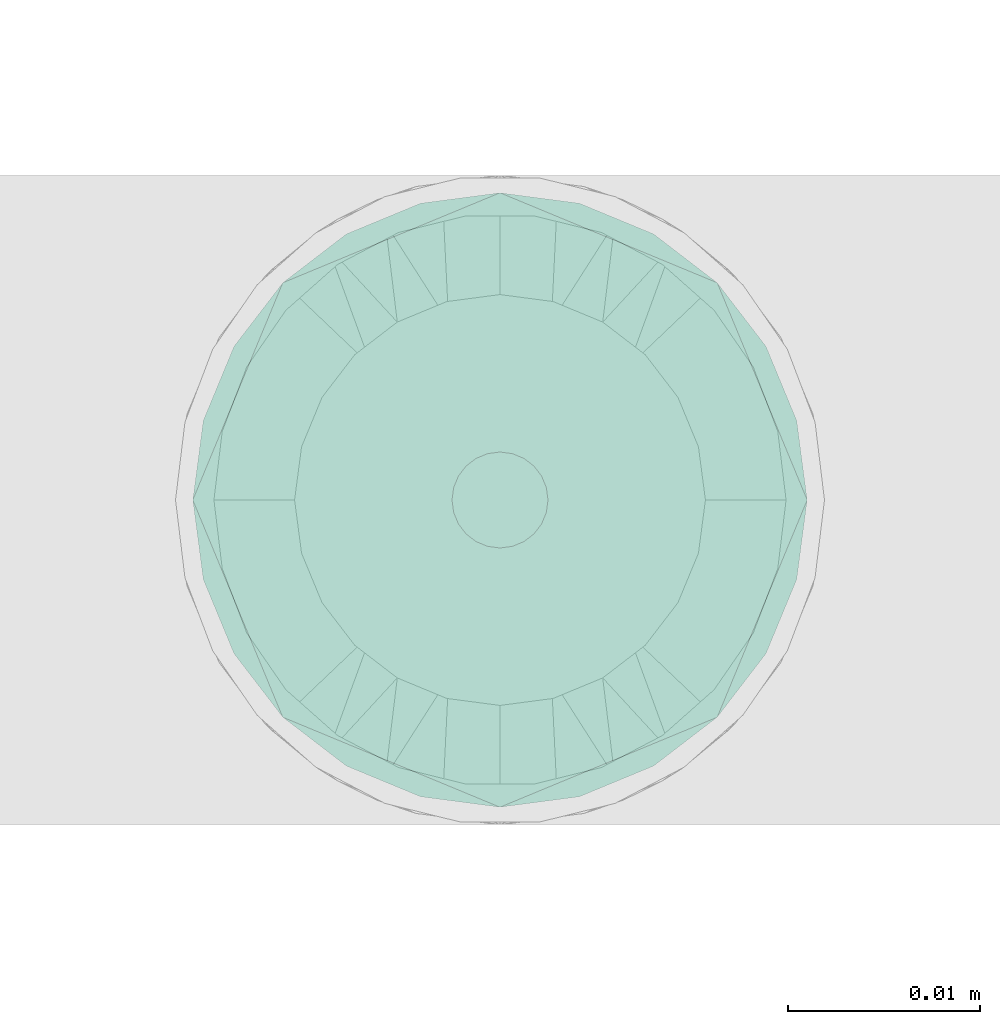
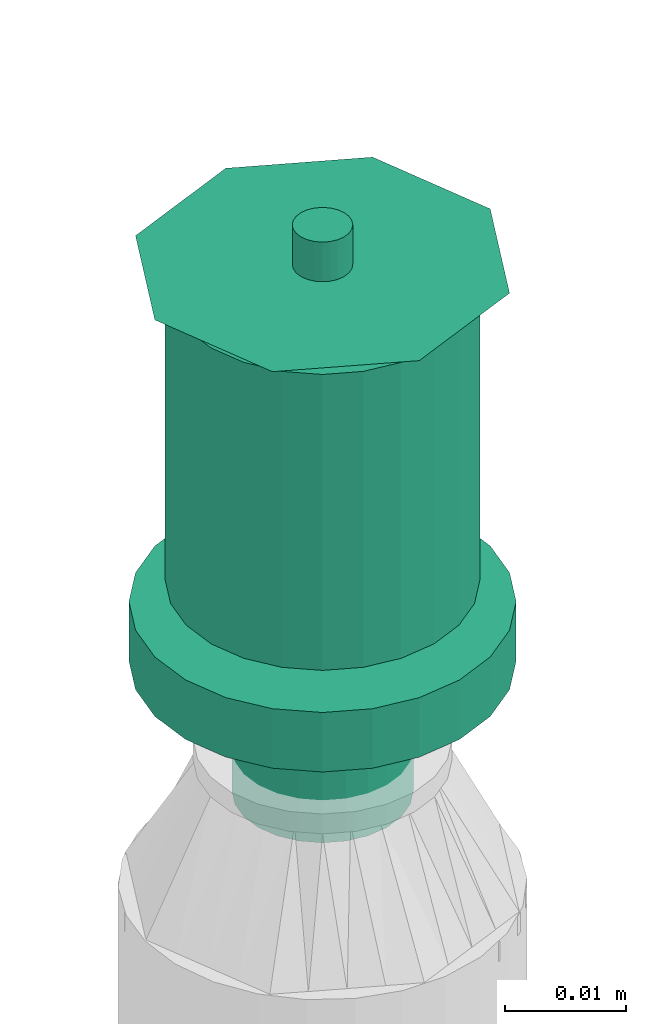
# One storey, part 30 of 63: 1 flow terminal.
"""IFC2X3 building model written with IfcOpenShell, lengths in millimetres."""

from ifc_helpers import new_model, entity, si_unit, converted_unit, derived_unit, direction, frame, origin_with_axes, place, context, subcontext, project, spatial, open_shell, surface_model, source, transform, mapped, type_object, element, save


model = new_model("IFC2X3")

# Units and contexts
model_context = context("Model", 3, precision=0.01, world=frame((0.0, 4.29681676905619e-09, 0.0)), true_north=direction((4.01073788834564e-13, 1.0)))
plan_context = context("Plan", 3, precision=0.01, world=frame((0.0, 4.29681676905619e-09, 0.0)), true_north=direction((4.01073788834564e-13, 1.0)))
body_context = subcontext(model_context, "Body", "Model", "MODEL_VIEW")
ifc_project = project(units=[converted_unit("PLANEANGLEUNIT", "DEGREE", entity("IfcPositiveLengthMeasure", 0.0174532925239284), si_unit("PLANEANGLEUNIT", "RADIAN"), dimensions=[0, 0, 0, 0, 0, 0, 0]), si_unit("AREAUNIT", "SQUARE_METRE"), si_unit("LENGTHUNIT", "METRE", prefix="MILLI"), si_unit("MASSUNIT", "GRAM", prefix="KILO"), si_unit("POWERUNIT", "WATT"), si_unit("PRESSUREUNIT", "PASCAL", prefix="KILO"), si_unit("FORCEUNIT", "NEWTON", prefix="KILO"), si_unit("ELECTRICVOLTAGEUNIT", "VOLT"), si_unit("ELECTRICCURRENTUNIT", "AMPERE"), si_unit("THERMODYNAMICTEMPERATUREUNIT", "DEGREE_CELSIUS"), si_unit("TIMEUNIT", "SECOND"), si_unit("VOLUMEUNIT", "CUBIC_METRE"), derived_unit("LINEARVELOCITYUNIT", [(si_unit("LENGTHUNIT", "METRE"), 1), (si_unit("TIMEUNIT", "SECOND"), -1)]), derived_unit("VOLUMETRICFLOWRATEUNIT", [(si_unit("VOLUMEUNIT", "CUBIC_METRE"), 1), (si_unit("TIMEUNIT", "SECOND"), -1)]), derived_unit("THERMALTRANSMITTANCEUNIT", [(si_unit("POWERUNIT", "WATT"), 1), (si_unit("THERMODYNAMICTEMPERATUREUNIT", "KELVIN"), -1), (si_unit("AREAUNIT", "SQUARE_METRE"), -1)]), derived_unit("SOUNDPRESSUREUNIT", [(si_unit("PRESSUREUNIT", "PASCAL"), 1)])], contexts=[model_context, plan_context])

# Site, building, storey
site_placement = place(None, frame((0.0, -4.29681676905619e-09, 0.0), z_axis=(0.0, 0.0, 1.0), x_axis=(1.0, 0.0, 0.0)))
site = spatial("IfcSite", under=ifc_project, at=site_placement, CompositionType="ELEMENT")
building_placement = place(site_placement, frame((0.0, 4.29681676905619e-09, 0.0), z_axis=(0.0, 0.0, 1.0), x_axis=(1.0, 0.0, 0.0)))
building = spatial("IfcBuilding", under=site, at=building_placement, Name="mc-building", CompositionType="ELEMENT")
storey_placement = place(building_placement, frame((0.0, 0.0, 207370.0), z_axis=(0.0, 0.0, 1.0), x_axis=(1.0, 0.0, 0.0)))
storey = spatial("IfcBuildingStorey", under=building, at=storey_placement, Name="Nivå E", CompositionType="ELEMENT", Elevation=207370.0)

# Flow terminal
fire_suppression_terminal_type = type_object("IfcFireSuppressionTerminalType", Name="68DGR-STD-STÅENDE", PredefinedType="NOTDEFINED")
shared_shape = source(origin_with_axes(), body_context, "Body", "SurfaceModel", [
    surface_model("IfcShellBasedSurfaceModel", [(3.36465, -12.55704, 51.0), (6.5, -11.25833, 51.0), (9.19239, -9.19239, 51.0), (12.55704, -3.36465, 51.0), (-11.25833, -6.5, 51.0), (11.25833, -6.5, 51.0), (-13.0, 0.0, 51.0), (0.0, -13.0, 51.0), (-6.5, -11.25833, 51.0), (-3.36465, -12.55704, 51.0), (-9.19239, -9.19239, 51.0), (-12.55704, -3.36465, 51.0), (13.0, 0.0, 51.0), (12.55704, 3.36465, 51.0), (11.25833, 6.5, 51.0), (9.19239, 9.19239, 51.0), (6.5, 11.25833, 51.0), (3.36465, 12.55704, 51.0), (0.0, 13.0, 51.0), (-3.36465, 12.55704, 51.0), (-12.55704, 3.36465, 51.0), (-9.19239, 9.19239, 51.0), (-11.25833, 6.5, 51.0), (-6.5, 11.25833, 51.0), (0.0, 13.0, 21.14766), (3.36465, 12.55704, 21.14766), (6.5, 11.25833, 21.14766), (-3.36465, 12.55704, 21.14766), (9.19239, 9.19239, 21.14766), (11.25833, 6.5, 21.14766), (12.55704, 3.36465, 21.14766), (-12.55704, 3.36465, 21.14766), (-11.25833, -6.5, 21.14766), (-9.19239, 9.19239, 21.14766), (-6.5, 11.25833, 21.14766), (-11.25833, 6.5, 21.14766), (-13.0, 0.0, 21.14766), (12.55704, -3.36465, 21.14766), (9.19239, -9.19239, 21.14766), (11.25833, -6.5, 21.14766), (6.5, -11.25833, 21.14766), (3.36465, -12.55704, 21.14766), (-6.5, -11.25833, 21.14766), (-9.19239, -9.19239, 21.14766), (-12.55704, -3.36465, 21.14766), (0.0, -13.0, 21.14766), (-3.36465, -12.55704, 21.14766), (13.0, 0.0, 21.14766), (7.24444, -1.94114, 0.1), (1.94114, -7.24444, 0.1), (3.75, -6.49519, 0.1), (5.3033, -5.3033, 0.1), (-5.3033, -5.3033, 0.1), (6.49519, -3.75, 0.1), (5.3033, 5.3033, 0.1), (0.0, -7.5, 0.1), (-3.75, -6.49519, 0.1), (-1.94114, -7.24444, 0.1), (-7.24444, -1.94114, 0.1), (-6.49519, -3.75, 0.1), (-7.24444, 1.94114, 0.1), (7.5, 0.0, 0.1), (6.49519, 3.75, 0.1), (-6.49519, 3.75, 0.1), (1.94114, 7.24444, 0.1), (0.0, 7.5, 0.1), (3.75, 6.49519, 0.1), (-7.5, 0.0, 0.1), (-5.3033, 5.3033, 0.1), (-1.94114, 7.24444, 0.1), (-3.75, 6.49519, 0.1), (7.24444, 1.94114, 0.1), (1.94114, 7.24444, -0.1), (-6.49519, 3.75, -0.1), (0.0, 7.5, -0.1), (5.3033, 5.3033, -0.1), (3.75, 6.49519, -0.1), (6.49519, 3.75, -0.1), (7.24444, 1.94114, -0.1), (-1.94114, 7.24444, -0.1), (-5.3033, 5.3033, -0.1), (-3.75, 6.49519, -0.1), (-7.24444, 1.94114, -0.1), (-7.24444, -1.94114, -0.1), (-7.5, 0.0, -0.1), (7.5, 0.0, -0.1), (7.24444, -1.94114, -0.1), (-5.3033, -5.3033, -0.1), (1.94114, -7.24444, -0.1), (6.49519, -3.75, -0.1), (5.3033, -5.3033, -0.1), (3.75, -6.49519, -0.1), (-6.49519, -3.75, -0.1), (-3.75, -6.49519, -0.1), (0.0, -7.5, -0.1), (-1.94114, -7.24444, -0.1), (0.0, -2.5, 51.0), (-2.5, 0.0, 51.0), (0.0, 2.5, 51.0), (2.5, 0.0, 51.0), (0.0, -16.0, 53.0), (11.31371, -11.31371, 53.0), (-11.31371, -11.31371, 53.0), (-16.0, 0.0, 53.0), (16.0, 0.0, 53.0), (11.31371, 11.31371, 53.0), (0.0, 16.0, 53.0), (-11.31371, 11.31371, 53.0), (1.25, -2.16506, 57.0), (0.0, -2.5, 57.0), (0.64705, -2.41481, 57.0), (2.41481, -0.64705, 57.0), (1.76777, -1.76777, 57.0), (-2.41481, -0.64705, 57.0), (-2.5, 0.0, 57.0), (2.16506, -1.25, 57.0), (-1.25, -2.16506, 57.0), (-0.64705, -2.41481, 57.0), (-1.76777, -1.76777, 57.0), (-2.16506, -1.25, 57.0), (2.5, 0.0, 57.0), (2.41481, 0.64705, 57.0), (2.16506, 1.25, 57.0), (1.76777, 1.76777, 57.0), (0.64705, 2.41481, 57.0), (1.25, 2.16506, 57.0), (-1.76777, 1.76777, 57.0), (0.0, 2.5, 57.0), (-2.16506, 1.25, 57.0), (-2.41481, 0.64705, 57.0), (-0.64705, 2.41481, 57.0), (-1.25, 2.16506, 57.0), (1.25, 2.16506, 51.0), (1.76777, 1.76777, 51.0), (1.15, 1.99186, 51.0), (0.59528, 2.22163, 51.0), (0.64705, 2.41481, 51.0), (0.0, 2.3, 51.0), (1.62635, 1.62635, 51.0), (2.41481, 0.64705, 51.0), (2.3, 0.0, 51.0), (2.22163, 0.59528, 51.0), (2.16506, 1.25, 51.0), (1.99186, 1.15, 51.0), (-0.59528, 2.22163, 51.0), (-0.64705, 2.41481, 51.0), (-1.15, 1.99186, 51.0), (-1.76777, 1.76777, 51.0), (-1.25, 2.16506, 51.0), (-1.62635, 1.62635, 51.0), (-1.99186, 1.15, 51.0), (-2.16506, 1.25, 51.0), (-2.22163, 0.59528, 51.0), (-2.41481, 0.64705, 51.0), (-2.3, 0.0, 51.0), (2.41481, -0.64705, 51.0), (2.22163, -0.59528, 51.0), (1.99186, -1.15, 51.0), (2.16506, -1.25, 51.0), (1.62635, -1.62635, 51.0), (1.76777, -1.76777, 51.0), (1.25, -2.16506, 51.0), (1.15, -1.99186, 51.0), (0.59528, -2.22163, 51.0), (0.64705, -2.41481, 51.0), (0.0, -2.3, 51.0), (-2.16506, -1.25, 51.0), (-1.99186, -1.15, 51.0), (-1.76777, -1.76777, 51.0), (-1.62635, -1.62635, 51.0), (-2.41481, -0.64705, 51.0), (-2.22163, -0.59528, 51.0), (-0.59528, -2.22163, 51.0), (-0.64705, -2.41481, 51.0), (-1.15, -1.99186, 51.0), (-1.25, -2.16506, 51.0), (1.62635, -1.62635, 56.8), (1.15, -1.99186, 56.8), (0.59528, -2.22163, 56.8), (0.0, -2.3, 56.8), (2.22163, 0.59528, 56.8), (1.99186, -1.15, 56.8), (2.22163, -0.59528, 56.8), (-0.59528, -2.22163, 56.8), (-1.15, -1.99186, 56.8), (-1.62635, -1.62635, 56.8), (-1.99186, -1.15, 56.8), (-2.22163, -0.59528, 56.8), (-1.99186, 1.15, 56.8), (2.3, 0.0, 56.8), (1.62635, 1.62635, 56.8), (1.99186, 1.15, 56.8), (1.15, 1.99186, 56.8), (0.0, 2.3, 56.8), (0.59528, 2.22163, 56.8), (-2.22163, 0.59528, 56.8), (-2.3, 0.0, 56.8), (-1.15, 1.99186, 56.8), (-0.59528, 2.22163, 56.8), (-1.62635, 1.62635, 56.8), (4.1411, -15.45481, 19.0), (8.0, -13.85641, 19.0), (11.31371, -11.31371, 19.0), (-8.0, -13.85641, 19.0), (15.45481, -4.1411, 19.0), (16.0, 0.0, 19.0), (13.85641, -8.0, 19.0), (0.0, -16.0, 19.0), (-4.1411, -15.45481, 19.0), (-13.85641, -8.0, 19.0), (-11.31371, -11.31371, 19.0), (-15.45481, -4.1411, 19.0), (15.45481, 4.1411, 19.0), (13.85641, 8.0, 19.0), (11.31371, 11.31371, 19.0), (-4.1411, 15.45481, 19.0), (8.0, 13.85641, 19.0), (4.1411, 15.45481, 19.0), (0.0, 16.0, 19.0), (-13.85641, 8.0, 19.0), (-15.45481, 4.1411, 19.0), (-16.0, 0.0, 19.0), (-11.31371, 11.31371, 19.0), (-8.0, 13.85641, 19.0), (0.0, 16.0, 13.0), (4.1411, 15.45481, 13.0), (8.0, 13.85641, 13.0), (-4.1411, 15.45481, 13.0), (11.31371, 11.31371, 13.0), (13.85641, 8.0, 13.0), (15.45481, 4.1411, 13.0), (-15.45481, -4.1411, 13.0), (-11.31371, 11.31371, 13.0), (-8.0, 13.85641, 13.0), (-13.85641, 8.0, 13.0), (-15.45481, 4.1411, 13.0), (-16.0, 0.0, 13.0), (4.1411, -15.45481, 13.0), (16.0, 0.0, 13.0), (15.45481, -4.1411, 13.0), (13.85641, -8.0, 13.0), (11.31371, -11.31371, 13.0), (8.0, -13.85641, 13.0), (-8.0, -13.85641, 13.0), (-13.85641, -8.0, 13.0), (-11.31371, -11.31371, 13.0), (0.0, -16.0, 13.0), (-4.1411, -15.45481, 13.0), (7.24444, -1.94114, 13.0), (1.94114, -7.24444, 13.0), (3.75, -6.49519, 13.0), (5.3033, -5.3033, 13.0), (-5.3033, -5.3033, 13.0), (6.49519, -3.75, 13.0), (5.3033, 5.3033, 13.0), (0.0, -7.5, 13.0), (-3.75, -6.49519, 13.0), (-1.94114, -7.24444, 13.0), (-7.24444, -1.94114, 13.0), (-6.49519, -3.75, 13.0), (-7.24444, 1.94114, 13.0), (7.5, 0.0, 13.0), (6.49519, 3.75, 13.0), (-6.49519, 3.75, 13.0), (1.94114, 7.24444, 13.0), (0.0, 7.5, 13.0), (3.75, 6.49519, 13.0), (-7.5, 0.0, 13.0), (-5.3033, 5.3033, 13.0), (-1.94114, 7.24444, 13.0), (-3.75, 6.49519, 13.0), (7.24444, 1.94114, 13.0), (3.75, 6.49519, 0.0), (5.3033, 5.3033, 0.0), (3.65, 6.32199, 0.0), (1.88938, 7.05126, 0.0), (0.0, 7.3, 0.0), (1.94114, 7.24444, 0.0), (0.0, 7.5, 0.0), (5.16188, 5.16188, 0.0), (7.24444, 1.94114, 0.0), (7.3, 0.0, 0.0), (7.05126, 1.88938, 0.0), (7.5, 0.0, 0.0), (6.49519, 3.75, 0.0), (6.32199, 3.65, 0.0), (-1.88938, 7.05126, 0.0), (-1.94114, 7.24444, 0.0), (-3.65, 6.32199, 0.0), (-5.3033, 5.3033, 0.0), (-3.75, 6.49519, 0.0), (-5.16188, 5.16188, 0.0), (-6.32199, 3.65, 0.0), (-6.49519, 3.75, 0.0), (-7.05126, 1.88938, 0.0), (-7.24444, 1.94114, 0.0), (-7.3, 0.0, 0.0), (-7.5, 0.0, 0.0), (7.24444, -1.94114, 0.0), (7.05126, -1.88938, 0.0), (6.32199, -3.65, 0.0), (6.49519, -3.75, 0.0), (5.16188, -5.16188, 0.0), (5.3033, -5.3033, 0.0), (3.75, -6.49519, 0.0), (3.65, -6.32199, 0.0), (1.88938, -7.05126, 0.0), (1.94114, -7.24444, 0.0), (0.0, -7.3, 0.0), (0.0, -7.5, 0.0), (-6.49519, -3.75, 0.0), (-6.32199, -3.65, 0.0), (-5.3033, -5.3033, 0.0), (-5.16188, -5.16188, 0.0), (-7.24444, -1.94114, 0.0), (-7.05126, -1.88938, 0.0), (-1.88938, -7.05126, 0.0), (-1.94114, -7.24444, 0.0), (-3.65, -6.32199, 0.0), (-3.75, -6.49519, 0.0), (1.88938, -7.05126, 12.8), (0.0, -7.3, 12.8), (3.65, -6.32199, 12.8), (5.16188, -5.16188, 12.8), (6.32199, -3.65, 12.8), (7.05126, 1.88938, 12.8), (7.05126, -1.88938, 12.8), (-5.16188, -5.16188, 12.8), (-1.88938, -7.05126, 12.8), (-3.65, -6.32199, 12.8), (-6.32199, -3.65, 12.8), (-7.05126, -1.88938, 12.8), (0.0, 7.3, 12.8), (7.3, 0.0, 12.8), (6.32199, 3.65, 12.8), (5.16188, 5.16188, 12.8), (3.65, 6.32199, 12.8), (1.88938, 7.05126, 12.8), (-6.32199, 3.65, 12.8), (-7.05126, 1.88938, 12.8), (-7.3, 0.0, 12.8), (-3.65, 6.32199, 12.8), (-1.88938, 7.05126, 12.8), (-5.16188, 5.16188, 12.8)], [open_shell([[[0, 1, 2]], [[0, 2, 3]], [[0, 3, 4]], [[3, 2, 5]], [[6, 4, 3]], [[7, 8, 9]], [[7, 0, 8]], [[8, 4, 10]], [[0, 4, 8]], [[4, 6, 11]], [[6, 3, 12]], [[13, 14, 15]], [[6, 13, 15]], [[16, 17, 18]], [[15, 16, 19]], [[18, 19, 16]], [[20, 21, 22]], [[20, 6, 15]], [[21, 19, 23]], [[19, 21, 20]], [[15, 19, 20]], [[13, 6, 12]], [[24, 25, 26]], [[27, 24, 26]], [[28, 29, 30]], [[26, 28, 31]], [[28, 32, 31]], [[27, 33, 34]], [[33, 27, 31]], [[33, 31, 35]], [[27, 26, 31]], [[31, 32, 36]], [[32, 28, 30]], [[32, 30, 37]], [[38, 37, 39]], [[38, 40, 41]], [[38, 41, 37]], [[32, 37, 41]], [[32, 42, 43]], [[44, 36, 32]], [[42, 45, 46]], [[42, 32, 41]], [[45, 42, 41]], [[30, 47, 37]], [[4, 32, 43]], [[8, 42, 46]], [[43, 42, 10]], [[9, 46, 45]], [[36, 11, 6]], [[11, 36, 44]], [[11, 44, 4]], [[44, 32, 4]], [[43, 10, 4]], [[8, 10, 42]], [[46, 9, 8]], [[45, 7, 9]], [[0, 41, 40]], [[38, 1, 40]], [[5, 39, 37]], [[38, 39, 2]], [[3, 37, 47]], [[41, 0, 7]], [[40, 1, 0]], [[38, 2, 1]], [[39, 5, 2]], [[3, 5, 37]], [[47, 12, 3]], [[41, 7, 45]], [[30, 13, 47]], [[29, 14, 30]], [[25, 24, 17]], [[15, 29, 28]], [[30, 14, 13]], [[13, 12, 47]], [[16, 26, 17]], [[16, 15, 28]], [[26, 25, 17]], [[15, 14, 29]], [[28, 26, 16]], [[24, 18, 17]], [[19, 27, 34]], [[33, 23, 34]], [[22, 35, 31]], [[33, 35, 21]], [[20, 31, 36]], [[27, 19, 18]], [[34, 23, 19]], [[33, 21, 23]], [[35, 22, 21]], [[20, 22, 31]], [[36, 6, 20]], [[27, 18, 24]], [[48, 49, 50]], [[48, 50, 51]], [[49, 48, 52]], [[48, 51, 53]], [[54, 52, 48]], [[55, 56, 57]], [[56, 55, 52]], [[52, 58, 59]], [[52, 55, 49]], [[52, 60, 58]], [[54, 48, 61]], [[62, 54, 61]], [[54, 63, 52]], [[64, 65, 54]], [[64, 54, 66]], [[63, 54, 65]], [[63, 60, 52]], [[67, 58, 60]], [[68, 69, 70]], [[69, 68, 63]], [[69, 63, 65]], [[71, 62, 61]], [[72, 73, 74]], [[75, 72, 76]], [[75, 77, 78]], [[72, 75, 73]], [[78, 73, 75]], [[79, 80, 81]], [[80, 79, 73]], [[74, 73, 79]], [[78, 82, 73]], [[82, 83, 84]], [[82, 78, 85]], [[86, 87, 85]], [[88, 86, 89]], [[90, 91, 88]], [[90, 88, 89]], [[87, 86, 88]], [[83, 87, 92]], [[83, 85, 87]], [[93, 94, 95]], [[94, 93, 87]], [[88, 94, 87]], [[85, 83, 82]], [[83, 58, 84]], [[92, 59, 83]], [[56, 87, 93]], [[92, 87, 52]], [[57, 93, 95]], [[83, 59, 58]], [[58, 67, 84]], [[57, 56, 93]], [[52, 87, 56]], [[52, 59, 92]], [[55, 57, 95]], [[95, 94, 55]], [[88, 49, 94]], [[91, 50, 88]], [[53, 90, 89]], [[91, 90, 51]], [[48, 89, 86]], [[91, 51, 50]], [[50, 49, 88]], [[61, 48, 86]], [[53, 89, 48]], [[53, 51, 90]], [[85, 61, 86]], [[94, 49, 55]], [[78, 71, 85]], [[77, 62, 78]], [[66, 75, 76]], [[77, 75, 54]], [[64, 76, 72]], [[78, 62, 71]], [[71, 61, 85]], [[64, 66, 76]], [[54, 75, 66]], [[54, 62, 77]], [[65, 64, 72]], [[72, 74, 65]], [[79, 69, 74]], [[81, 70, 79]], [[63, 80, 73]], [[81, 80, 68]], [[60, 73, 82]], [[81, 68, 70]], [[70, 69, 79]], [[67, 60, 82]], [[63, 73, 60]], [[63, 68, 80]], [[84, 67, 82]], [[74, 69, 65]], [[96, 97, 98]], [[98, 99, 96]], [[100, 101, 102]], [[103, 102, 101]], [[101, 104, 103]], [[104, 105, 106]], [[107, 103, 106]], [[106, 103, 104]], [[99, 98, 105]], [[105, 104, 99]], [[98, 106, 105]], [[98, 107, 106]], [[107, 98, 97]], [[103, 107, 97]], [[97, 96, 102]], [[102, 103, 97]], [[96, 100, 102]], [[96, 101, 100]], [[101, 96, 99]], [[104, 101, 99]], [[108, 109, 110]], [[111, 108, 112]], [[113, 108, 114]], [[111, 112, 115]], [[108, 111, 114]], [[109, 116, 117]], [[116, 109, 118]], [[118, 113, 119]], [[118, 109, 108]], [[108, 113, 118]], [[111, 120, 114]], [[121, 122, 123]], [[114, 121, 123]], [[114, 123, 124]], [[124, 123, 125]], [[126, 124, 127]], [[124, 128, 129]], [[129, 114, 124]], [[126, 130, 131]], [[128, 124, 126]], [[130, 126, 127]], [[121, 114, 120]], [[132, 133, 134]], [[132, 134, 135]], [[136, 135, 137]], [[135, 136, 132]], [[136, 137, 98]], [[134, 133, 138]], [[139, 140, 141]], [[140, 139, 99]], [[139, 141, 142]], [[138, 142, 143]], [[142, 138, 133]], [[143, 142, 141]], [[98, 144, 145]], [[98, 137, 144]], [[145, 144, 146]], [[147, 148, 149]], [[146, 148, 145]], [[149, 148, 146]], [[150, 151, 147]], [[151, 150, 152]], [[150, 147, 149]], [[153, 152, 154]], [[152, 153, 151]], [[153, 154, 97]], [[99, 155, 156]], [[156, 155, 157]], [[157, 158, 159]], [[158, 157, 155]], [[159, 158, 160]], [[160, 161, 162]], [[162, 161, 163]], [[163, 164, 165]], [[164, 163, 161]], [[165, 164, 96]], [[162, 159, 160]], [[166, 167, 168]], [[168, 167, 169]], [[167, 166, 170]], [[97, 171, 170]], [[170, 171, 167]], [[97, 154, 171]], [[172, 96, 173]], [[172, 173, 174]], [[169, 175, 168]], [[175, 169, 174]], [[175, 174, 173]], [[165, 96, 172]], [[156, 140, 99]], [[170, 113, 97]], [[166, 119, 170]], [[116, 168, 175]], [[166, 168, 118]], [[117, 175, 173]], [[170, 119, 113]], [[113, 114, 97]], [[117, 116, 175]], [[118, 168, 116]], [[118, 119, 166]], [[109, 117, 173]], [[173, 96, 109]], [[164, 110, 96]], [[161, 108, 164]], [[115, 160, 158]], [[161, 160, 112]], [[111, 158, 155]], [[161, 112, 108]], [[108, 110, 164]], [[120, 111, 155]], [[115, 158, 111]], [[115, 112, 160]], [[99, 120, 155]], [[96, 110, 109]], [[139, 121, 99]], [[142, 122, 139]], [[125, 133, 132]], [[142, 133, 123]], [[124, 132, 136]], [[139, 122, 121]], [[121, 120, 99]], [[124, 125, 132]], [[123, 133, 125]], [[123, 122, 142]], [[127, 124, 136]], [[136, 98, 127]], [[145, 130, 98]], [[148, 131, 145]], [[128, 147, 151]], [[148, 147, 126]], [[129, 151, 153]], [[148, 126, 131]], [[131, 130, 145]], [[114, 129, 153]], [[128, 151, 129]], [[128, 126, 147]], [[97, 114, 153]], [[98, 130, 127]], [[176, 177, 178]], [[176, 178, 179]], [[180, 176, 179]], [[181, 176, 182]], [[180, 182, 176]], [[183, 184, 179]], [[185, 179, 184]], [[186, 187, 185]], [[185, 187, 188]], [[179, 185, 188]], [[189, 182, 180]], [[190, 191, 180]], [[192, 190, 180]], [[193, 194, 192]], [[180, 193, 192]], [[188, 193, 180]], [[195, 188, 196]], [[196, 188, 187]], [[197, 198, 199]], [[188, 199, 198]], [[188, 198, 193]], [[180, 179, 188]], [[154, 187, 171]], [[171, 186, 167]], [[174, 169, 184]], [[185, 169, 167]], [[172, 174, 183]], [[187, 186, 171]], [[154, 196, 187]], [[174, 184, 183]], [[184, 169, 185]], [[167, 186, 185]], [[172, 183, 179]], [[179, 165, 172]], [[165, 178, 163]], [[163, 177, 162]], [[157, 159, 181]], [[176, 159, 162]], [[156, 157, 182]], [[177, 176, 162]], [[163, 178, 177]], [[156, 182, 189]], [[182, 157, 181]], [[159, 176, 181]], [[156, 189, 140]], [[179, 178, 165]], [[140, 180, 141]], [[141, 191, 143]], [[134, 138, 192]], [[190, 138, 143]], [[135, 134, 194]], [[180, 191, 141]], [[140, 189, 180]], [[134, 192, 194]], [[192, 138, 190]], [[143, 191, 190]], [[135, 194, 193]], [[193, 137, 135]], [[137, 198, 144]], [[144, 197, 146]], [[150, 149, 188]], [[199, 149, 146]], [[152, 150, 195]], [[197, 199, 146]], [[144, 198, 197]], [[152, 195, 196]], [[195, 150, 188]], [[149, 199, 188]], [[152, 196, 154]], [[193, 198, 137]], [[200, 201, 202]], [[203, 200, 202]], [[204, 205, 202]], [[204, 202, 206]], [[203, 202, 205]], [[207, 203, 208]], [[207, 200, 203]], [[203, 209, 210]], [[209, 203, 211]], [[205, 211, 203]], [[205, 212, 211]], [[212, 213, 214]], [[215, 212, 214]], [[216, 217, 218]], [[214, 216, 215]], [[218, 215, 216]], [[211, 219, 220]], [[221, 211, 220]], [[222, 215, 223]], [[215, 222, 219]], [[219, 211, 215]], [[211, 212, 215]], [[224, 225, 226]], [[227, 224, 226]], [[228, 229, 230]], [[227, 226, 228]], [[227, 228, 231]], [[227, 232, 233]], [[232, 227, 234]], [[234, 231, 235]], [[231, 234, 227]], [[235, 231, 236]], [[228, 230, 231]], [[237, 238, 239]], [[237, 239, 240]], [[241, 242, 237]], [[241, 237, 240]], [[238, 237, 243]], [[244, 243, 245]], [[243, 244, 231]], [[243, 246, 247]], [[243, 231, 238]], [[237, 246, 243]], [[238, 231, 230]], [[231, 211, 236]], [[244, 209, 231]], [[203, 245, 243]], [[244, 245, 210]], [[208, 243, 247]], [[231, 209, 211]], [[211, 221, 236]], [[208, 203, 243]], [[210, 245, 203]], [[210, 209, 244]], [[207, 208, 247]], [[247, 246, 207]], [[237, 200, 246]], [[242, 201, 237]], [[206, 241, 240]], [[242, 241, 202]], [[204, 240, 239]], [[242, 202, 201]], [[201, 200, 237]], [[205, 204, 239]], [[206, 240, 204]], [[206, 202, 241]], [[238, 205, 239]], [[246, 200, 207]], [[230, 212, 238]], [[229, 213, 230]], [[216, 228, 226]], [[229, 228, 214]], [[217, 226, 225]], [[230, 213, 212]], [[212, 205, 238]], [[217, 216, 226]], [[214, 228, 216]], [[214, 213, 229]], [[218, 217, 225]], [[225, 224, 218]], [[227, 215, 224]], [[233, 223, 227]], [[219, 232, 234]], [[233, 232, 222]], [[220, 234, 235]], [[233, 222, 223]], [[223, 215, 227]], [[221, 220, 235]], [[219, 234, 220]], [[219, 222, 232]], [[236, 221, 235]], [[224, 215, 218]], [[248, 249, 250]], [[248, 250, 251]], [[249, 248, 252]], [[248, 251, 253]], [[254, 252, 248]], [[255, 256, 257]], [[256, 255, 252]], [[252, 258, 259]], [[252, 255, 249]], [[252, 260, 258]], [[254, 248, 261]], [[262, 254, 261]], [[254, 263, 252]], [[264, 265, 254]], [[264, 254, 266]], [[263, 254, 265]], [[263, 260, 252]], [[267, 258, 260]], [[268, 269, 270]], [[269, 268, 263]], [[269, 263, 265]], [[271, 262, 261]], [[272, 273, 274]], [[272, 274, 275]], [[276, 277, 275]], [[277, 276, 278]], [[275, 277, 272]], [[274, 273, 279]], [[280, 281, 282]], [[281, 280, 283]], [[280, 282, 284]], [[279, 284, 285]], [[284, 279, 273]], [[285, 284, 282]], [[278, 286, 287]], [[287, 286, 288]], [[289, 290, 291]], [[288, 290, 287]], [[288, 291, 290]], [[278, 276, 286]], [[292, 293, 289]], [[293, 292, 294]], [[292, 289, 291]], [[295, 294, 296]], [[294, 295, 293]], [[295, 296, 297]], [[283, 298, 299]], [[299, 298, 300]], [[300, 301, 302]], [[301, 300, 298]], [[302, 301, 303]], [[303, 304, 305]], [[305, 304, 306]], [[306, 307, 308]], [[307, 306, 304]], [[308, 307, 309]], [[305, 302, 303]], [[310, 311, 312]], [[312, 311, 313]], [[311, 310, 314]], [[297, 315, 314]], [[314, 315, 311]], [[297, 296, 315]], [[316, 309, 317]], [[316, 317, 318]], [[313, 319, 312]], [[313, 318, 319]], [[319, 318, 317]], [[308, 309, 316]], [[299, 281, 283]], [[314, 258, 297]], [[310, 259, 314]], [[256, 312, 319]], [[310, 312, 252]], [[257, 319, 317]], [[314, 259, 258]], [[258, 267, 297]], [[257, 256, 319]], [[252, 312, 256]], [[252, 259, 310]], [[255, 257, 317]], [[317, 309, 255]], [[307, 249, 309]], [[304, 250, 307]], [[253, 303, 301]], [[304, 303, 251]], [[248, 301, 298]], [[304, 251, 250]], [[250, 249, 307]], [[261, 248, 298]], [[253, 301, 248]], [[253, 251, 303]], [[283, 261, 298]], [[309, 249, 255]], [[280, 271, 283]], [[284, 262, 280]], [[266, 273, 272]], [[284, 273, 254]], [[264, 272, 277]], [[280, 262, 271]], [[271, 261, 283]], [[264, 266, 272]], [[254, 273, 266]], [[254, 262, 284]], [[265, 264, 277]], [[277, 278, 265]], [[287, 269, 278]], [[290, 270, 287]], [[263, 289, 293]], [[290, 289, 268]], [[260, 293, 295]], [[290, 268, 270]], [[270, 269, 287]], [[267, 260, 295]], [[263, 293, 260]], [[263, 268, 289]], [[297, 267, 295]], [[278, 269, 265]], [[320, 321, 322]], [[323, 322, 324]], [[325, 326, 322]], [[324, 322, 326]], [[322, 327, 325]], [[328, 329, 321]], [[327, 321, 329]], [[330, 331, 327]], [[322, 321, 327]], [[331, 332, 327]], [[326, 325, 333]], [[334, 325, 332]], [[335, 334, 336]], [[332, 337, 336]], [[334, 332, 336]], [[331, 338, 332]], [[339, 338, 340]], [[340, 338, 331]], [[341, 342, 343]], [[332, 338, 343]], [[332, 343, 342]], [[332, 325, 327]], [[296, 331, 315]], [[315, 330, 311]], [[318, 313, 329]], [[327, 313, 311]], [[316, 318, 328]], [[331, 330, 315]], [[296, 340, 331]], [[318, 329, 328]], [[329, 313, 327]], [[311, 330, 327]], [[316, 328, 321]], [[321, 308, 316]], [[308, 320, 306]], [[306, 322, 305]], [[300, 302, 324]], [[323, 302, 305]], [[299, 300, 326]], [[322, 323, 305]], [[306, 320, 322]], [[299, 326, 333]], [[326, 300, 324]], [[302, 323, 324]], [[299, 333, 281]], [[321, 320, 308]], [[281, 325, 282]], [[282, 334, 285]], [[274, 279, 336]], [[335, 279, 285]], [[275, 274, 337]], [[325, 334, 282]], [[281, 333, 325]], [[274, 336, 337]], [[336, 279, 335]], [[285, 334, 335]], [[275, 337, 332]], [[332, 276, 275]], [[276, 342, 286]], [[286, 341, 288]], [[292, 291, 338]], [[343, 291, 288]], [[294, 292, 339]], [[341, 343, 288]], [[286, 342, 341]], [[294, 339, 340]], [[339, 292, 338]], [[291, 343, 338]], [[294, 340, 296]], [[332, 342, 276]]])]),
])
flow_terminal_placement = place(storey_placement, frame((722412.90183, 434695.91689, 3027.71994000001), z_axis=(0.0, 0.0, 1.0), x_axis=(1.0, 0.0, 0.0)))
element("IfcFlowTerminal", 1, at=flow_terminal_placement, inside=storey, type_object=fire_suppression_terminal_type, Name="68DGR-STD-STÅENDE", context=body_context, shape_type="MappedRepresentation", body=[
    mapped(shared_shape, transform((0.0, 0.0, 0.0), scale=1.0)),
])

save(model, "model.ifc")
